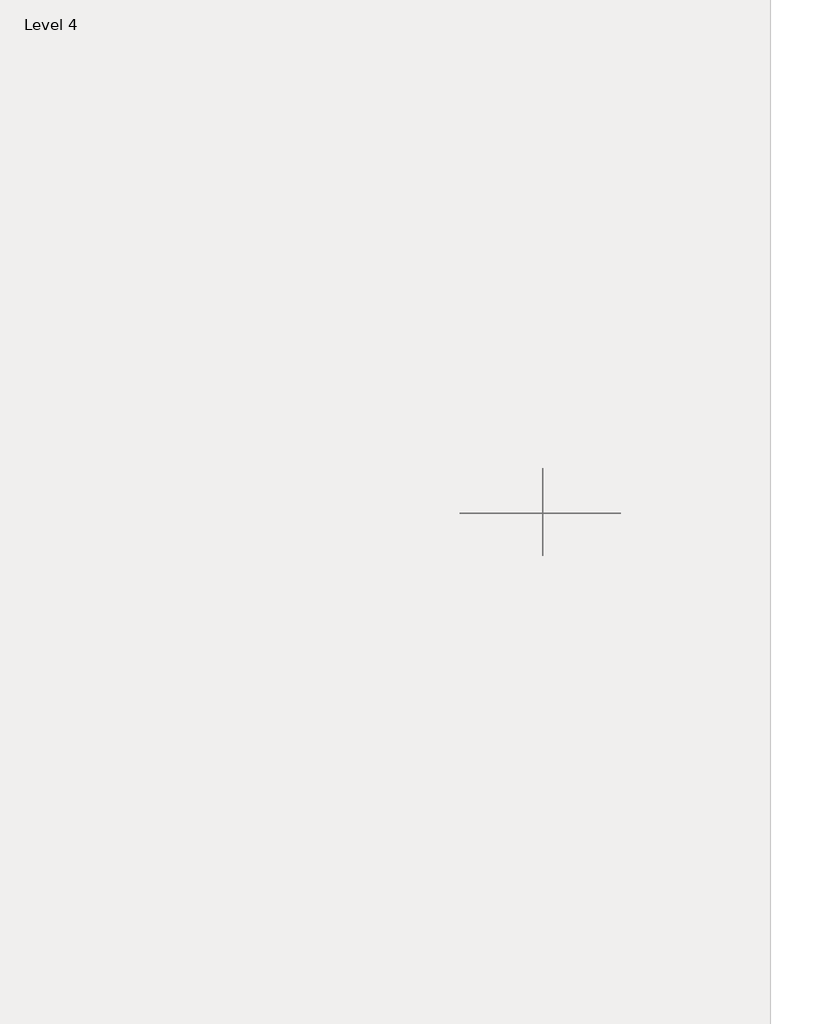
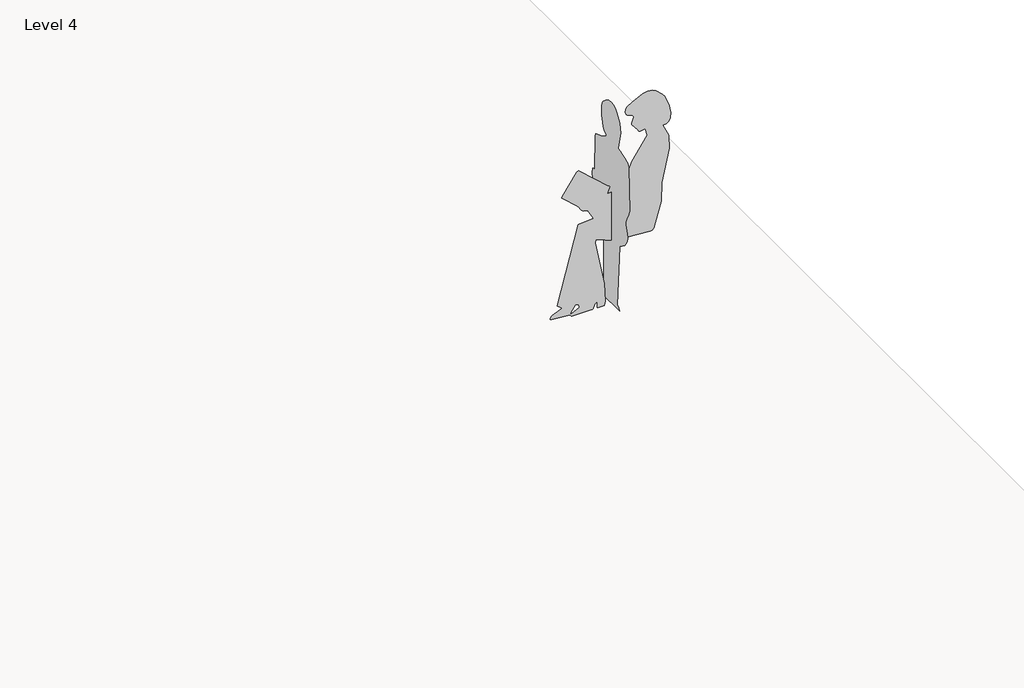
# One storey, part 4 of 4: 1 proxy.
"""IFC4 building model written with IfcOpenShell, lengths in millimetres."""

import ifcopenshell
import ifcopenshell.guid

model = None  # the IFC model being written
_history = None  # IfcOwnerHistory: only IFC2X3 demands one
_inside = {}  # id of a spatial element -> (the spatial element, [elements in it])
_under = {}  # id of a project, library or spatial element -> (it, [spatial elements below it])
_declared = {}  # id of a project -> (the project, [libraries it declares])
_typed = {}  # id of a type object -> (the type object, [elements of that type])
_made_of = {}  # id of a material, layer set ... -> (it, [elements and type objects made of it])


def new_model(schema):
    """Start an empty IFC model of exactly this schema.

    Asked for "IFC4X3", IfcOpenShell would pick the latest addendum, in which some entities
    have other attributes; the version numbers below select the first issue.
    IFC2X3 requires an IfcOwnerHistory on every rooted entity: one is made here for all.
    """
    global model, _history
    if schema == "IFC4X3":
        model = ifcopenshell.file(schema_version=(4, 3, 0, 0))
    else:
        model = ifcopenshell.file(schema=schema)
    _inside.clear()
    _under.clear()
    _declared.clear()
    _typed.clear()
    _made_of.clear()
    _history = None
    if model.schema == "IFC2X3":
        org = make("IfcOrganization", Name="unknown")
        user = make(
            "IfcPersonAndOrganization",
            ThePerson=make("IfcPerson", FamilyName="unknown"),
            TheOrganization=org,
        )
        app = make(
            "IfcApplication",
            ApplicationDeveloper=org,
            Version="unknown",
            ApplicationFullName="unknown",
            ApplicationIdentifier="unknown",
        )
        _history = make(
            "IfcOwnerHistory",
            OwningUser=user,
            OwningApplication=app,
            ChangeAction="ADDED",
            CreationDate=0,
        )
    return model


def make(cls, **values):
    """One entity of the class cls with the attributes given. An attribute that is None is left unset."""
    return model.create_entity(
        cls, **{name: value for name, value in values.items() if value is not None}
    )


def rooted(cls, **values):
    """An entity with a GlobalId (a new one), such as an element, a storey or a relation."""
    return make(cls, GlobalId=ifcopenshell.guid.new(), OwnerHistory=_history, **values)


def si_unit(unit_type, name, prefix=None):
    """IfcSIUnit, for example si_unit("LENGTHUNIT", "METRE", prefix="MILLI")."""
    return make("IfcSIUnit", UnitType=unit_type, Prefix=prefix, Name=name)


def assignment(units):
    """IfcUnitAssignment: the units of a project."""
    return None if units is None else make("IfcUnitAssignment", Units=units)


def point(xyz):
    """IfcCartesianPoint."""
    return None if xyz is None else make("IfcCartesianPoint", Coordinates=xyz)


def direction(xyz):
    """IfcDirection."""
    return None if xyz is None else make("IfcDirection", DirectionRatios=xyz)


def frame(location, z_axis=None, x_axis=None):
    """IfcAxis2Placement3D, a coordinate frame: its origin and axes. An axis left out is left unset."""
    return make(
        "IfcAxis2Placement3D",
        Location=point(location),
        Axis=direction(z_axis),
        RefDirection=direction(x_axis),
    )


def origin():
    """The frame at (0, 0, 0) with its axes left unset."""
    return frame((0.0, 0.0, 0.0))


def place(relative_to, where):
    """IfcLocalPlacement: puts the frame where relative to a parent placement (None: the world)."""
    return make(
        "IfcLocalPlacement", PlacementRelTo=relative_to, RelativePlacement=where
    )


def context(
    kind, dimensions, precision=None, world=None, true_north=None, identifier=None
):
    """IfcGeometricRepresentationContext, for example the 3D "Model" context."""
    return make(
        "IfcGeometricRepresentationContext",
        ContextIdentifier=identifier,
        ContextType=kind,
        CoordinateSpaceDimension=dimensions,
        Precision=precision,
        WorldCoordinateSystem=world,
        TrueNorth=true_north,
    )


def project(units=None, contexts=None):
    """IfcProject with its units and contexts."""
    return rooted(
        "IfcProject",
        Name="project",
        RepresentationContexts=contexts,
        UnitsInContext=assignment(units),
    )


def spatial(cls, under=None, at=None, **own):
    """A site, building, storey or space (cls), placed at a placement, below another one or the project."""
    s = rooted(cls, ObjectPlacement=at, **own)
    if under is not None:
        _under.setdefault(under.id(), (under, []))[1].append(s)
    return s


def point_list(points):
    """IfcCartesianPointList2D or 3D."""
    cls = (
        "IfcCartesianPointList2D" if len(points[0]) == 2 else "IfcCartesianPointList3D"
    )
    return make(cls, CoordList=points)


def triangles(points, corners, closed=None, point_numbers=None):
    """IfcTriangulatedFaceSet: each triangle names its three corners, points numbered from 1."""
    return make(
        "IfcTriangulatedFaceSet",
        Coordinates=point_list(points),
        Closed=closed,
        CoordIndex=corners,
        PnIndex=point_numbers,
    )


def shape(context_of_items, identifier, shape_type, items):
    """IfcShapeRepresentation: the items that make up one representation, for example the "Body"."""
    return make(
        "IfcShapeRepresentation",
        ContextOfItems=context_of_items,
        RepresentationIdentifier=identifier,
        RepresentationType=shape_type,
        Items=items,
    )


def source(mapping_origin, context_of_items, identifier, shape_type, items):
    """IfcRepresentationMap: a shape defined once, which mapped items show again and again."""
    return make(
        "IfcRepresentationMap",
        MappingOrigin=mapping_origin,
        MappedRepresentation=shape(context_of_items, identifier, shape_type, items),
    )


def transform(
    local_origin,
    x_axis=None,
    y_axis=None,
    z_axis=None,
    scale=None,
    scale2=None,
    scale3=None,
    uniform=True,
):
    """IfcCartesianTransformationOperator3D, or its non-uniform kind. x_axis, y_axis, z_axis: its Axis1, 2, 3."""
    if uniform:
        return make(
            "IfcCartesianTransformationOperator3D",
            Axis1=direction(x_axis),
            Axis2=direction(y_axis),
            LocalOrigin=point(local_origin),
            Scale=scale,
            Axis3=direction(z_axis),
        )
    return make(
        "IfcCartesianTransformationOperator3DnonUniform",
        Axis1=direction(x_axis),
        Axis2=direction(y_axis),
        LocalOrigin=point(local_origin),
        Scale=scale,
        Axis3=direction(z_axis),
        Scale2=scale2,
        Scale3=scale3,
    )


def mapped(mapping_source, mapping_target):
    """IfcMappedItem: shows the shape of a source again, moved by a transform."""
    return make(
        "IfcMappedItem", MappingSource=mapping_source, MappingTarget=mapping_target
    )


def made_of(thing, what):
    """Note that an element or type object is made of a material, layer set ...; save() writes the relation."""
    if what is not None:
        _made_of.setdefault(what.id(), (what, []))[1].append(thing)
    return thing


def element(
    cls,
    number,
    at=None,
    inside=None,
    cuts=None,
    type_object=None,
    material=None,
    context=None,
    identifier="Body",
    shape_type=None,
    held_by="IfcProductDefinitionShape",
    body=None,
    shapes=None,
    **own,
):
    """One element of the class cls, such as IfcWall. Its Tag is "e" and its number.

    at: its placement. inside: the storey or other place that contains it. cuts: it is an
    opening in that element (IfcRelVoidsElement). A single representation is given by context,
    identifier, shape_type and body (its items); several are given by shapes. held_by: the class
    of the entity that holds the representations. save() writes the other relations.
    """
    e = rooted(cls, Tag="e%d" % number, ObjectPlacement=at, **own)
    if body is not None:
        shapes = [shape(context, identifier, shape_type, body)]
    if shapes is not None:
        e.Representation = make(held_by, Representations=shapes)
    if inside is not None:
        _inside.setdefault(inside.id(), (inside, []))[1].append(e)
    if cuts is not None:
        rooted(
            "IfcRelVoidsElement", RelatingBuildingElement=cuts, RelatedOpeningElement=e
        )
    if type_object is not None:
        _typed.setdefault(type_object.id(), (type_object, []))[1].append(e)
    return made_of(e, material)


def aggregate(whole, parts):
    """IfcRelAggregates: a whole, such as a stair, and the parts it consists of."""
    return rooted("IfcRelAggregates", RelatingObject=whole, RelatedObjects=parts)


def save(model, path):
    """Write the relations noted so far, then the file.

    IfcRelAggregates (storeys below a building ...), IfcRelContainedInSpatialStructure (elements
    in a storey), IfcRelDefinesByType, IfcRelAssociatesMaterial and IfcRelDeclares: one each for
    every whole, place, type object, material and project.
    """
    for whole, parts in _under.values():
        aggregate(whole, parts)
    for where, things in _inside.values():
        rooted(
            "IfcRelContainedInSpatialStructure",
            RelatedElements=things,
            RelatingStructure=where,
        )
    for kind, things in _typed.values():
        rooted("IfcRelDefinesByType", RelatedObjects=things, RelatingType=kind)
    for what, things in _made_of.values():
        rooted("IfcRelAssociatesMaterial", RelatedObjects=things, RelatingMaterial=what)
    for by, libraries in _declared.values():
        rooted("IfcRelDeclares", RelatingContext=by, RelatedDefinitions=libraries)
    model.write(path)


def rpc_female_d179ddfe(model_context):
    return source(origin(), model_context, "Body", "Tessellation", [
        triangles([(441.0115623, 0.000195, 2.95e-05), (429.3526445, 101.0508632, 2.95e-05), (396.1482396, 193.849741, 2.95e-05), (344.0569788, 275.7380203, 2.95e-05), (275.7379839, 344.0571605, 2.95e-05), (193.8496139, 396.1483123, 2.95e-05), (101.0507451, 429.3527172, 2.95e-05), (0.0001128, 441.0116713, 2.95e-05), (-101.0505544, 429.3527535, 2.95e-05), (-193.8494322, 396.1483486, 2.95e-05), (-275.7377296, 344.0570878, 2.95e-05), (-344.0569061, 275.7380929, 2.95e-05), (-396.1479853, 193.8497047, 2.95e-05), (-429.3523902, 101.050836, 2.95e-05), (-441.0113442, 0.0002072, 2.95e-05), (0.0001438, -441.0112716, 2.95e-05), (5.6288573, -72.8588658, 70.0852479), (5.6288585, -67.5989352, 46.4156806), (5.6288573, -125.4578945, 20.116164), (5.6288573, -130.7177933, 25.3760469), (5.6288568, -108.5117995, 62.754241), (5.6288568, -96.5284376, 75.3451376), (5.6288636, 28.8463088, 4.4e-06), (5.628863, 40.229117, 35.8958695), (5.628863, 42.8589028, 37.582617), (5.6288625, 46.0255291, 39.5148301), (5.628863, 49.4069043, 41.5083494), (5.628863, 52.681005, 43.379338), (5.628863, 55.5256942, 44.9433777), (5.628863, 57.6189757, 46.0169087), (5.628863, 58.6387445, 46.4156806), (5.6288642, 58.6388263, 5.3e-06), (5.6288664, 109.8768961, 6.9e-06), (5.6288659, 117.5638814, 30.074729), (5.6288619, 110.2503017, 165.0034458), (5.6288488, 45.8425734, 492.8872839), (5.6288488, 48.1189788, 514.5472627), (5.6288494, 53.3788639, 517.1771167), (5.6288551, 178.1910311, 465.0429079), (5.6288653, 434.6626039, 445.192448), (5.6288659, 450.5017533, 448.7984053), (5.6288659, 460.0242462, 459.6877842), (5.6288619, 516.0170857, 641.4428238), (5.6288585, 518.8805011, 782.802364), (5.6288539, 571.5700902, 1021.0322994), (5.6288505, 566.2196537, 1122.0662487), (5.6288454, 526.7703175, 1208.8547012), (5.6288471, 549.3823457, 1214.8042654), (5.6288466, 565.9655994, 1225.2771), (5.6288471, 578.7778261, 1246.7330578), (5.628846, 582.3522446, 1283.6603096), (5.6288443, 571.2219646, 1340.5466629), (5.6288403, 539.9200962, 1421.8807972), (5.6288392, 521.1666261, 1445.9131966), (5.6288358, 476.5802487, 1486.813607), (5.6288341, 449.7626269, 1499.3802818), (5.6288341, 419.2722642, 1503.8241966), (5.6288318, 384.6166397, 1497.9940292), (5.6288307, 310.7213682, 1462.4588436), (5.6288295, 273.9932685, 1438.4605991), (5.6288295, 262.185559, 1422.5043056), (5.6288307, 258.6746541, 1403.1431328), (5.6288312, 266.4050325, 1379.8015343), (5.6288312, 272.8454643, 1373.0538357), (5.6288335, 310.0952073, 1357.3786297), (5.6288335, 316.3479143, 1352.4606159), (5.6288335, 319.0040385, 1345.6120514), (5.6288346, 317.1758071, 1332.7887062), (5.6288352, 305.8543688, 1300.9030071), (5.6288352, 306.5085803, 1292.1762142), (5.6288386, 347.7776456, 1237.8580181), (5.6288397, 353.1934851, 1227.2643333), (5.6288397, 357.0101126, 1223.4171844), (5.6288403, 363.9689901, 1222.0999683), (5.6288409, 400.5326377, 1227.2643333), (5.6288426, 416.3123068, 1172.0352917), (5.6288431, 303.2702605, 1016.0021559), (5.6288449, 265.1504035, 911.3597786), (5.6288466, 263.775124, 856.4411104), (5.6288431, 152.5272633, 835.1194468), (5.628842, 132.2774819, 835.4014063), (5.628842, 148.1584529, 880.886566), (5.628842, 148.0571964, 882.7405226), (5.6288414, 137.6855275, 888.0610554), (5.6288278, -66.8523783, 1071.7675747), (5.6288273, -73.5721717, 1077.1683352), (5.6288273, -86.0403332, 1072.7861898), (5.6288278, -188.4956529, 924.5040344), (5.6288278, -191.2067156, 911.6699341), (5.6288358, -75.4888061, 809.1019215), (5.6288375, -53.9765018, 775.0415005), (5.628838, -41.2994186, 764.3927319), (5.6288397, -7.1097666, 756.5028791), (5.6288431, 31.0002676, 687.1163441), (5.6288431, 32.3392324, 682.8642054), (5.628842, 2.8209363, 678.8459913), (5.6288397, -75.4888061, 672.3442806), (5.6288505, -225.3960531, 114.7944466), (5.6288528, -193.9320943, 87.1596054), (5.6288528, -191.2067156, 83.2349994), (5.6288511, -259.585536, 54.305547), (5.6288511, -263.2692319, 51.0626081), (5.6288511, -269.2554763, 42.3128833), (5.6288517, -272.6934205, 33.4609913), (5.6288517, -273.1918821, 30.0901555), (5.6288517, -272.7351876, 28.0059872), (5.6288522, -264.4336594, 24.8814686), (5.6288562, -149.6562358, 17.8736649), (5.6288573, -130.7177933, 12.2262931), (5.6288579, -120.238046, 0.0), (104.0908666, 160.2089347, 3.1649078), (94.3579033, 160.2089347, 19.4060443), (89.3722792, 160.2089347, 24.6666948), (83.6749889, 160.2089347, 28.6502543), (77.3615207, 160.2089347, 30.6359162), (108.9209588, 160.208971, 488.2475235), (167.9289758, 160.208971, 532.4711323), (185.1884238, 160.2089529, 554.3915603), (197.8182488, 160.2089529, 580.1067784), (203.7634891, 160.2089529, 609.7401077), (200.9693101, 160.2089529, 643.4147238), (182.2653464, 160.2089529, 694.762825), (181.0317008, 160.2089529, 706.1069727), (182.5596416, 160.2089529, 717.0533976), (187.6063721, 160.2089529, 730.9447008), (194.3765257, 160.2089529, 745.9817917), (210.3236083, 160.2089529, 778.2543858), (229.8987579, 160.2089529, 827.5114082), (217.4196868, 160.2089892, 1149.376791), (206.2291816, 160.2089892, 1174.665073), (197.3626625, 160.2089892, 1180.1407562), (179.9116746, 160.2089892, 1186.5602772), (157.4188615, 160.2090074, 1193.4647249), (133.4268031, 160.2090074, 1200.3942438), (111.4781428, 160.2090074, 1206.8904316), (95.1154334, 160.2090074, 1212.4936506), (87.8813364, 160.2090074, 1216.7443359), (122.0707194, 160.2090074, 1350.8719048), (106.8578307, 160.2090255, 1414.3610527), (72.8125705, 160.2090255, 1471.759584), (51.5733646, 160.2090255, 1493.1550804), (29.0406942, 160.2090255, 1507.0042351), (6.3528093, 160.2090255, 1511.2990311), (-28.6189517, 160.2090255, 1503.9375618), (-63.4776388, 160.2090255, 1485.8244232), (-92.9896819, 160.2090255, 1457.7803501), (-104.1052189, 160.2090255, 1440.290284), (-113.0716229, 160.2090255, 1412.8615803), (-115.1812325, 160.2090074, 1340.4901257), (-96.9761937, 160.2090074, 1269.5770123), (-80.5492803, 160.2090074, 1243.9710171), (-59.3960202, 160.2090074, 1229.8941147), (-59.3960202, 160.2090074, 1219.3742626), (-106.3336258, 160.2090074, 1187.1321173), (-188.2636903, 160.2090255, 1156.2552956), (-192.5278195, 160.2090255, 1139.830426), (-199.1336482, 160.2090074, 881.9723282), (-218.9549129, 160.2090074, 877.9899405), (-221.2948136, 160.2090074, 876.8948765), (-223.2305058, 160.2090074, 874.3328962), (-229.8985581, 160.2089892, 846.8826822), (-219.8231193, 160.2089892, 732.8331757), (-218.615544, 160.2089892, 731.6850626), (-200.1001226, 160.2089892, 727.4659161), (-198.7834878, 160.2089892, 727.5732496), (-189.8889181, 160.2089892, 742.3224947), (-177.7438745, 160.2089892, 756.5027338), (-174.0054945, 160.2089892, 750.6861557), (-170.8934751, 160.208971, 743.8742895), (-168.1785245, 160.208971, 736.4751045), (-165.6313508, 160.208971, 728.8964973), (-163.0227891, 160.208971, 721.5463646), (-160.1235111, 160.208971, 714.8327482), (-156.7042431, 160.208971, 709.1635448), (-165.9934653, 160.208971, 587.3215633), (-161.082228, 160.208971, 562.7220474), (-151.4443625, 160.208971, 540.8466385), (-144.6676322, 160.208971, 533.0879914), (-106.327031, 160.208971, 513.8625661), (-97.6973615, 160.208971, 507.5200027), (-90.955422, 160.208971, 498.7673756), (-89.4974987, 160.2089347, 49.829067), (-106.3299469, 160.2089347, 7.46e-05), (105.2757234, 160.2089347, 7.46e-05)], [[15, 16, 1], [14, 15, 1], [14, 1, 2], [13, 14, 2], [13, 2, 3], [13, 3, 4], [12, 13, 4], [11, 12, 4], [11, 4, 5], [11, 5, 6], [11, 6, 7], [11, 7, 8], [11, 8, 9], [11, 9, 10], [23, 17, 18], [110, 23, 18], [110, 18, 19], [109, 110, 19], [17, 23, 24], [31, 32, 33], [31, 33, 34], [109, 19, 20], [108, 109, 20], [88, 89, 90], [82, 83, 84], [85, 86, 87], [105, 106, 107], [104, 105, 107], [103, 104, 107], [102, 103, 107], [101, 102, 107], [100, 101, 107], [100, 107, 108], [100, 108, 20], [100, 20, 21], [100, 21, 22], [87, 88, 90], [85, 87, 90], [84, 85, 90], [84, 90, 91], [84, 91, 92], [84, 92, 93], [82, 84, 93], [81, 82, 93], [81, 93, 94], [80, 81, 94], [80, 94, 95], [99, 100, 22], [17, 24, 25], [17, 25, 26], [31, 34, 35], [30, 31, 35], [17, 26, 27], [17, 27, 28], [17, 28, 29], [29, 30, 35], [17, 29, 35], [22, 17, 35], [99, 22, 35], [98, 99, 35], [97, 98, 35], [97, 35, 36], [97, 36, 37], [96, 97, 37], [96, 37, 38], [95, 96, 38], [80, 95, 38], [80, 38, 39], [79, 80, 39], [79, 39, 40], [79, 40, 41], [79, 41, 42], [79, 42, 43], [79, 43, 44], [78, 79, 44], [77, 78, 44], [77, 44, 45], [77, 45, 46], [76, 77, 46], [76, 46, 47], [75, 76, 47], [72, 73, 74], [71, 72, 74], [61, 62, 63], [60, 61, 63], [60, 63, 64], [59, 60, 64], [59, 64, 65], [59, 65, 66], [58, 59, 66], [57, 58, 66], [56, 57, 66], [55, 56, 66], [54, 55, 66], [54, 66, 67], [53, 54, 67], [52, 53, 67], [52, 67, 68], [51, 52, 68], [50, 51, 68], [49, 50, 68], [48, 49, 68], [47, 48, 68], [75, 47, 68], [74, 75, 68], [71, 74, 68], [70, 71, 68], [69, 70, 68], [183, 184, 111], [183, 111, 112], [183, 112, 113], [183, 113, 114], [183, 114, 115], [182, 183, 115], [181, 182, 115], [181, 115, 116], [154, 155, 156], [164, 165, 166], [180, 181, 116], [163, 164, 166], [162, 163, 166], [162, 166, 167], [161, 162, 167], [160, 161, 167], [159, 160, 167], [158, 159, 167], [157, 158, 167], [180, 116, 117], [180, 117, 118], [180, 118, 119], [180, 119, 120], [180, 120, 121], [180, 121, 122], [179, 180, 122], [179, 122, 123], [178, 179, 123], [177, 178, 123], [176, 177, 123], [175, 176, 123], [174, 175, 123], [174, 123, 124], [174, 124, 125], [173, 174, 125], [172, 173, 125], [171, 172, 125], [170, 171, 125], [169, 170, 125], [169, 125, 126], [168, 169, 126], [168, 126, 127], [167, 168, 127], [157, 167, 127], [157, 127, 128], [156, 157, 128], [154, 156, 128], [153, 154, 128], [153, 128, 129], [153, 129, 130], [153, 130, 131], [153, 131, 132], [153, 132, 133], [153, 133, 134], [153, 134, 135], [153, 135, 136], [153, 136, 137], [152, 153, 137], [151, 152, 137], [150, 151, 137], [149, 150, 137], [149, 137, 138], [149, 138, 139], [148, 149, 139], [147, 148, 139], [146, 147, 139], [146, 139, 140], [145, 146, 140], [145, 140, 141], [144, 145, 141], [144, 141, 142], [144, 142, 143]], closed=False),
    ])


model = new_model("IFC4")

# Units and contexts
model_context = context("Model", 3, world=origin())
ifc_project = project(units=[si_unit("LENGTHUNIT", "METRE", prefix="MILLI")], contexts=[model_context])

# Site, building, storey
site = spatial("IfcSite", under=ifc_project)
building = spatial("IfcBuilding", under=site)
storey = spatial("IfcBuildingStorey", under=building, Name="Level 4", Elevation=10972.8)

# Proxy
placement = place(None, origin())
rpc_female_shape = rpc_female_d179ddfe(model_context)
element("IfcBuildingElementProxy", 1, Name="RPC Female : Cynthia", ObjectType="RPC Female : Cynthia", at=placement, inside=storey, context=model_context, shape_type="MappedRepresentation", body=[
    mapped(rpc_female_shape, transform((16668.2038471, -2327.360924, 10972.8), x_axis=(0.0, -1.0, 0.0), y_axis=(1.0, 0.0, 0.0), z_axis=(0.0, 0.0, 1.0))),
])

save(model, "model.ifc")
